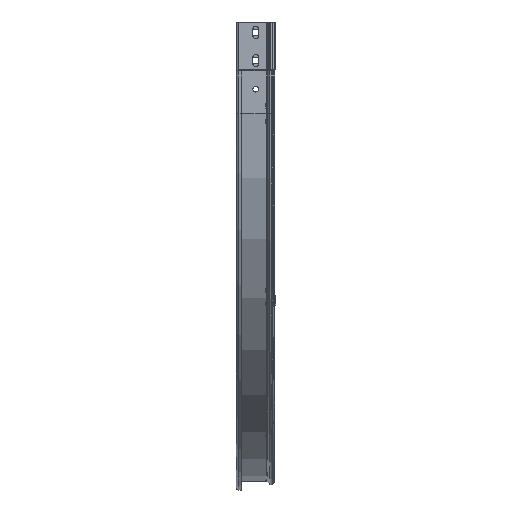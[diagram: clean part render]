
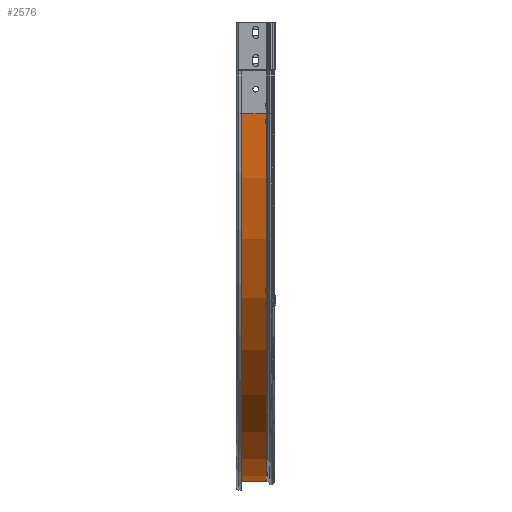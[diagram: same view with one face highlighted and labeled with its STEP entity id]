
A CAD part, left-side view. The second image highlights one B-rep face of the part: STEP entity #2576.
In plain terms, the highlighted cylindrical face has radius 601.2 mm (diameter 1202.4 mm), a partial arc.
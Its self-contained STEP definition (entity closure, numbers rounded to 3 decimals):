
#245 = CARTESIAN_POINT ( 'NONE',  ( 600., 14.319, -751.2 ) ) ;
#457 = EDGE_CURVE ( 'NONE', #1471, #9635, #11873, .T. ) ;
#505 = EDGE_CURVE ( 'NONE', #10689, #6358, #1820, .T. ) ;
#1471 = VERTEX_POINT ( 'NONE', #5861 ) ;
#1650 = DIRECTION ( 'NONE',  ( 0., -1., 0. ) ) ;
#1820 = LINE ( 'NONE', #6223, #7189 ) ;
#2104 = DIRECTION ( 'NONE',  ( 0., 0., 1. ) ) ;
#2371 = AXIS2_PLACEMENT_3D ( 'NONE', #8565, #5758, #4961 ) ;
#2471 = CARTESIAN_POINT ( 'NONE',  ( 600., 59., -751.2 ) ) ;
#2513 = VECTOR ( 'NONE', #1650, 1000. ) ;
#2576 = ADVANCED_FACE ( 'NONE', ( #12004 ), #6464, .T. ) ;
#2707 = ORIENTED_EDGE ( 'NONE', *, *, #457, .F. ) ;
#2755 = DIRECTION ( 'NONE',  ( 0., 0., 1. ) ) ;
#3532 = EDGE_CURVE ( 'NONE', #10689, #9635, #10290, .T. ) ;
#3698 = CARTESIAN_POINT ( 'NONE',  ( -1.2, 14.319, -150. ) ) ;
#4026 = EDGE_LOOP ( 'NONE', ( #5892, #12041, #5722, #2707 ) ) ;
#4916 = CARTESIAN_POINT ( 'NONE',  ( 600., 14.319, -150. ) ) ;
#4961 = DIRECTION ( 'NONE',  ( 0., 0., 1. ) ) ;
#5722 = ORIENTED_EDGE ( 'NONE', *, *, #3532, .T. ) ;
#5758 = DIRECTION ( 'NONE',  ( 0., 1., 0. ) ) ;
#5861 = CARTESIAN_POINT ( 'NONE',  ( -1.2, 59., -150. ) ) ;
#5892 = ORIENTED_EDGE ( 'NONE', *, *, #11520, .F. ) ;
#6223 = CARTESIAN_POINT ( 'NONE',  ( 600., 14.319, -751.2 ) ) ;
#6358 = VERTEX_POINT ( 'NONE', #2471 ) ;
#6464 = CYLINDRICAL_SURFACE ( 'NONE', #7082, 601.2 ) ;
#6581 = AXIS2_PLACEMENT_3D ( 'NONE', #4916, #10285, #2104 ) ;
#7082 = AXIS2_PLACEMENT_3D ( 'NONE', #7398, #11095, #2755 ) ;
#7141 = DIRECTION ( 'NONE',  ( 0., 1., 0. ) ) ;
#7189 = VECTOR ( 'NONE', #7141, 1000. ) ;
#7398 = CARTESIAN_POINT ( 'NONE',  ( 600., 0., -150. ) ) ;
#8565 = CARTESIAN_POINT ( 'NONE',  ( 600., 59., -150. ) ) ;
#9169 = CIRCLE ( 'NONE', #2371, 601.2 ) ;
#9635 = VERTEX_POINT ( 'NONE', #3698 ) ;
#10285 = DIRECTION ( 'NONE',  ( 0., 1., 0. ) ) ;
#10290 = CIRCLE ( 'NONE', #6581, 601.2 ) ;
#10689 = VERTEX_POINT ( 'NONE', #245 ) ;
#11095 = DIRECTION ( 'NONE',  ( 0., 1., 0. ) ) ;
#11520 = EDGE_CURVE ( 'NONE', #6358, #1471, #9169, .T. ) ;
#11873 = LINE ( 'NONE', #11991, #2513 ) ;
#11991 = CARTESIAN_POINT ( 'NONE',  ( -1.2, 14.319, -150. ) ) ;
#12004 = FACE_OUTER_BOUND ( 'NONE', #4026, .T. ) ;
#12041 = ORIENTED_EDGE ( 'NONE', *, *, #505, .F. ) ;
